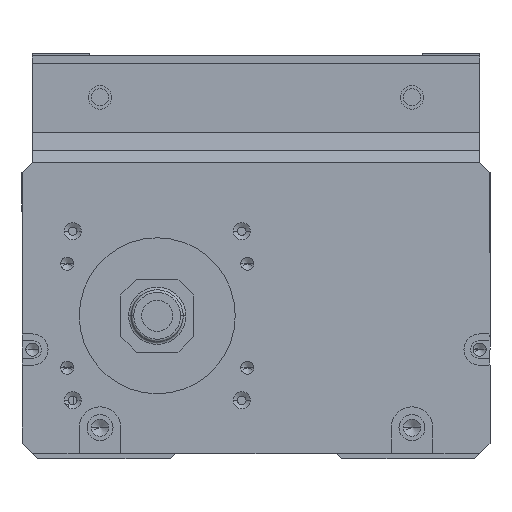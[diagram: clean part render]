
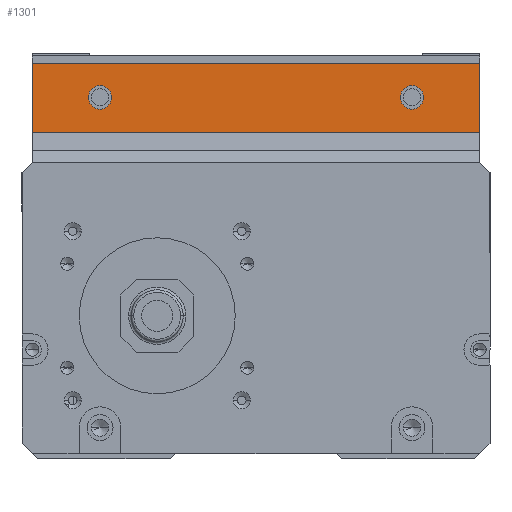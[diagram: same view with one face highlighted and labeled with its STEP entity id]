
A CAD part, front view. The second image highlights one B-rep face of the part: STEP entity #1301.
In plain terms, the highlighted planar face has unit normal (0, -1, 0).
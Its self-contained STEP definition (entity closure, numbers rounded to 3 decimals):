
#113 = ORIENTED_EDGE ( 'NONE', *, *, #9218, .T. ) ;
#244 = ORIENTED_EDGE ( 'NONE', *, *, #7550, .T. ) ;
#269 = ORIENTED_EDGE ( 'NONE', *, *, #1964, .T. ) ;
#298 = LINE ( 'NONE', #1000, #5680 ) ;
#436 = ORIENTED_EDGE ( 'NONE', *, *, #8171, .T. ) ;
#457 = CARTESIAN_POINT ( 'NONE',  ( 30., 78., -5.75 ) ) ;
#525 = ORIENTED_EDGE ( 'NONE', *, *, #10157, .F. ) ;
#590 = ORIENTED_EDGE ( 'NONE', *, *, #12162, .T. ) ;
#688 = VERTEX_POINT ( 'NONE', #7377 ) ;
#718 = DIRECTION ( 'NONE',  ( 0., 0., -1. ) ) ;
#790 = DIRECTION ( 'NONE',  ( 0., 1., 0. ) ) ;
#804 = ORIENTED_EDGE ( 'NONE', *, *, #14007, .T. ) ;
#890 = CARTESIAN_POINT ( 'NONE',  ( 30., 78., -8. ) ) ;
#924 = DIRECTION ( 'NONE',  ( 0., 0., -1. ) ) ;
#955 = ORIENTED_EDGE ( 'NONE', *, *, #13106, .T. ) ;
#1000 = CARTESIAN_POINT ( 'NONE',  ( -43., 78., -1.5 ) ) ;
#1086 = DIRECTION ( 'NONE',  ( 0., 0., -1. ) ) ;
#1118 = DIRECTION ( 'NONE',  ( 0., -1., 0. ) ) ;
#1122 = CARTESIAN_POINT ( 'NONE',  ( 45., 78., -1.5 ) ) ;
#1123 = PLANE ( 'NONE',  #3322 ) ;
#1301 = ADVANCED_FACE ( 'NONE', ( #13821, #3317, #8575 ), #1123, .T. ) ;
#1331 = DIRECTION ( 'NONE',  ( 0., 0., 1. ) ) ;
#1428 = DIRECTION ( 'NONE',  ( 0., 1., 0. ) ) ;
#1531 = CARTESIAN_POINT ( 'NONE',  ( -30., 78., -8. ) ) ;
#1964 = EDGE_CURVE ( 'NONE', #688, #13121, #4295, .T. ) ;
#3317 = FACE_BOUND ( 'NONE', #11041, .T. ) ;
#3322 = AXIS2_PLACEMENT_3D ( 'NONE', #1122, #1118, #1086 ) ;
#3593 = LINE ( 'NONE', #4551, #8851 ) ;
#3667 = CARTESIAN_POINT ( 'NONE',  ( -30., 78., -5.75 ) ) ;
#4295 = CIRCLE ( 'NONE', #6181, 2.25 ) ;
#4448 = DIRECTION ( 'NONE',  ( 0., 0., 1. ) ) ;
#4551 = CARTESIAN_POINT ( 'NONE',  ( 43., 78., -1.5 ) ) ;
#4576 = VECTOR ( 'NONE', #8555, 1000. ) ;
#5153 = AXIS2_PLACEMENT_3D ( 'NONE', #890, #790, #718 ) ;
#5680 = VECTOR ( 'NONE', #924, 1000. ) ;
#6170 = DIRECTION ( 'NONE',  ( 0., 0., 1. ) ) ;
#6181 = AXIS2_PLACEMENT_3D ( 'NONE', #12497, #12473, #12435 ) ;
#6200 = DIRECTION ( 'NONE',  ( 0., 1., 0. ) ) ;
#6234 = CARTESIAN_POINT ( 'NONE',  ( -30., 78., -8. ) ) ;
#6662 = CARTESIAN_POINT ( 'NONE',  ( 43., 78., -1.5 ) ) ;
#7112 = LINE ( 'NONE', #12836, #12467 ) ;
#7377 = CARTESIAN_POINT ( 'NONE',  ( 30., 78., -10.25 ) ) ;
#7550 = EDGE_CURVE ( 'NONE', #8834, #12786, #11310, .T. ) ;
#7913 = CARTESIAN_POINT ( 'NONE',  ( -30., 78., -10.25 ) ) ;
#8058 = VERTEX_POINT ( 'NONE', #6662 ) ;
#8171 = EDGE_CURVE ( 'NONE', #13121, #688, #12719, .T. ) ;
#8555 = DIRECTION ( 'NONE',  ( -1., 0., 0. ) ) ;
#8575 = FACE_OUTER_BOUND ( 'NONE', #13570, .T. ) ;
#8834 = VERTEX_POINT ( 'NONE', #3667 ) ;
#8851 = VECTOR ( 'NONE', #4448, 1000. ) ;
#9218 = EDGE_CURVE ( 'NONE', #12786, #8834, #9807, .T. ) ;
#9307 = AXIS2_PLACEMENT_3D ( 'NONE', #6234, #6200, #6170 ) ;
#9410 = CARTESIAN_POINT ( 'NONE',  ( -43., 78., -1.5 ) ) ;
#9807 = CIRCLE ( 'NONE', #13480, 2.25 ) ;
#9816 = CARTESIAN_POINT ( 'NONE',  ( 45., 78., -14.788 ) ) ;
#10157 = EDGE_CURVE ( 'NONE', #13281, #13968, #14995, .T. ) ;
#10576 = VERTEX_POINT ( 'NONE', #9410 ) ;
#11041 = EDGE_LOOP ( 'NONE', ( #269, #436 ) ) ;
#11310 = CIRCLE ( 'NONE', #9307, 2.25 ) ;
#12162 = EDGE_CURVE ( 'NONE', #13281, #8058, #3593, .T. ) ;
#12435 = DIRECTION ( 'NONE',  ( 0., 0., -1. ) ) ;
#12467 = VECTOR ( 'NONE', #12806, 1000. ) ;
#12473 = DIRECTION ( 'NONE',  ( 0., 1., 0. ) ) ;
#12497 = CARTESIAN_POINT ( 'NONE',  ( 30., 78., -8. ) ) ;
#12719 = CIRCLE ( 'NONE', #5153, 2.25 ) ;
#12786 = VERTEX_POINT ( 'NONE', #7913 ) ;
#12806 = DIRECTION ( 'NONE',  ( -1., 0., 0. ) ) ;
#12836 = CARTESIAN_POINT ( 'NONE',  ( 45., 78., -1.5 ) ) ;
#13106 = EDGE_CURVE ( 'NONE', #10576, #13968, #298, .T. ) ;
#13121 = VERTEX_POINT ( 'NONE', #457 ) ;
#13176 = CARTESIAN_POINT ( 'NONE',  ( -43., 78., -14.788 ) ) ;
#13281 = VERTEX_POINT ( 'NONE', #13886 ) ;
#13480 = AXIS2_PLACEMENT_3D ( 'NONE', #1531, #1428, #1331 ) ;
#13570 = EDGE_LOOP ( 'NONE', ( #525, #590, #804, #955 ) ) ;
#13821 = FACE_BOUND ( 'NONE', #15277, .T. ) ;
#13886 = CARTESIAN_POINT ( 'NONE',  ( 43., 78., -14.788 ) ) ;
#13968 = VERTEX_POINT ( 'NONE', #13176 ) ;
#14007 = EDGE_CURVE ( 'NONE', #8058, #10576, #7112, .T. ) ;
#14995 = LINE ( 'NONE', #9816, #4576 ) ;
#15277 = EDGE_LOOP ( 'NONE', ( #113, #244 ) ) ;
